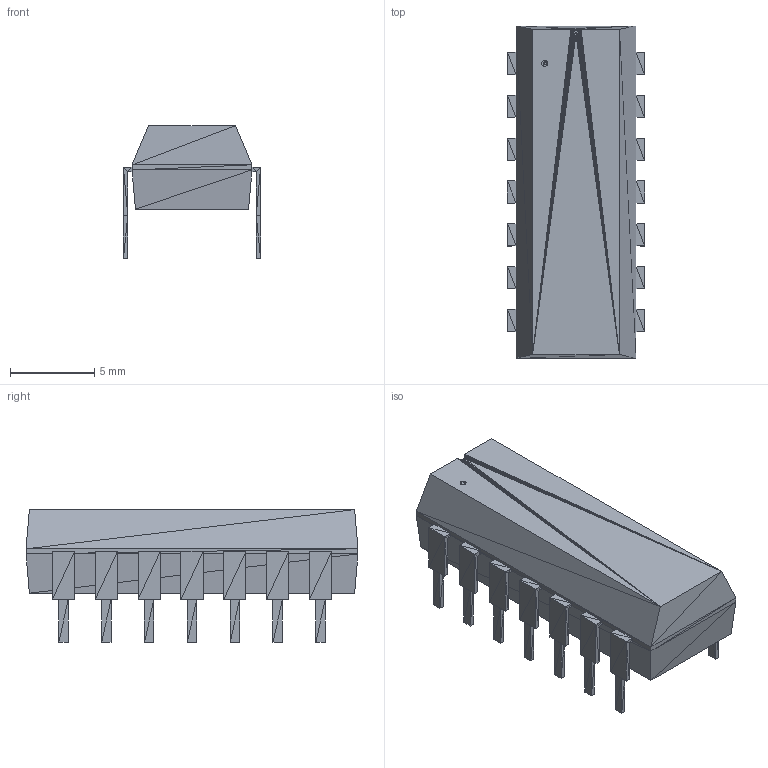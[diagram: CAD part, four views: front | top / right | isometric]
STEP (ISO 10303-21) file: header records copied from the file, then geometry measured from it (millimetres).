
FILE_DESCRIPTION(('STEP AP214'),'1');
FILE_NAME('NVA7','2017-02-15T02:38:08',(''),(''),'','','');
FILE_SCHEMA(('AUTOMOTIVE_DESIGN'));
Length unit declared in the file: millimetre
Products named in the file (1): product
Bounding box: 8.13 x 19.68 x 7.88 mm (x, y, z)
Surface area: 699.8 mm2 (no closed solid volume)
Topology: 0 solids, 677 shells, 677 faces, 2031 edges, 2031 vertices
Faces by surface type: plane 677
Entity records: 22400 total; most frequent: CARTESIAN_POINT 4740, DIRECTION 3387, ORIENTED_EDGE 2031, EDGE_CURVE 2031, VERTEX_POINT 2031, LINE 2031, VECTOR 2031, AXIS2_PLACEMENT_3D 678
